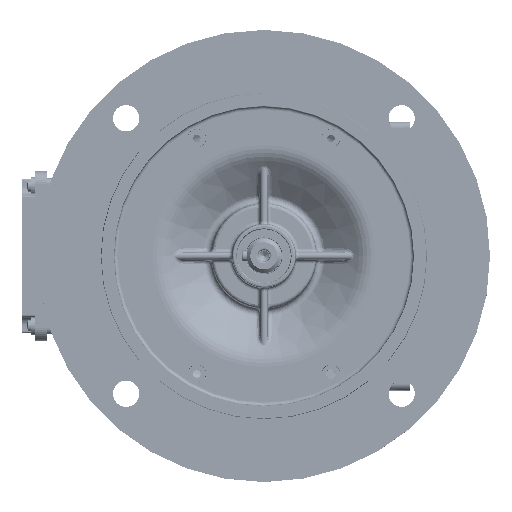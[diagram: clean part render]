
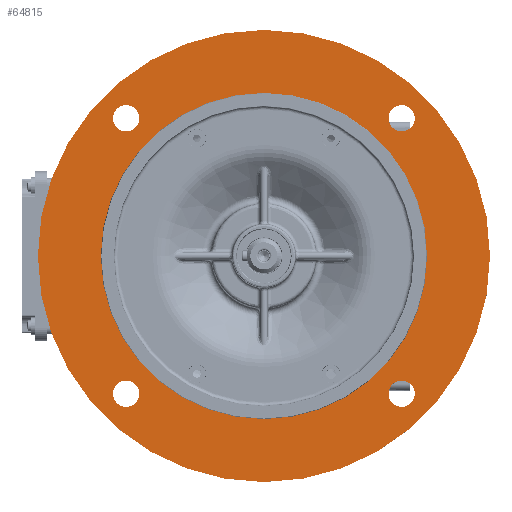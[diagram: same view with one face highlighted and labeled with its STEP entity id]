
A CAD part, top view. The second image highlights one B-rep face of the part: STEP entity #64815.
In plain terms, the highlighted planar face has unit normal (0, 0, 1).
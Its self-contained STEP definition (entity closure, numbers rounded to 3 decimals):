
#50276=FACE_BOUND('',#86097,.T.);
#50277=FACE_BOUND('',#86098,.T.);
#50278=FACE_BOUND('',#86099,.T.);
#50279=FACE_BOUND('',#86100,.T.);
#50280=FACE_BOUND('',#86101,.T.);
#50281=FACE_BOUND('',#86102,.T.);
#52891=PLANE('',#221612);
#64815=ADVANCED_FACE('',(#50276,#50277,#50278,#50279,#50280,#50281),#52891,
 .T.);
#86097=EDGE_LOOP('',(#128440));
#86098=EDGE_LOOP('',(#128441));
#86099=EDGE_LOOP('',(#128442));
#86100=EDGE_LOOP('',(#128443));
#86101=EDGE_LOOP('',(#128444));
#86102=EDGE_LOOP('',(#128445));
#128440=ORIENTED_EDGE('',*,*,#171461,.T.);
#128441=ORIENTED_EDGE('',*,*,#171462,.T.);
#128442=ORIENTED_EDGE('',*,*,#171463,.T.);
#128443=ORIENTED_EDGE('',*,*,#171464,.T.);
#128444=ORIENTED_EDGE('',*,*,#171460,.T.);
#128445=ORIENTED_EDGE('',*,*,#170331,.T.);
#148282=VERTEX_POINT('',#365095);
#148932=VERTEX_POINT('',#377931);
#148933=VERTEX_POINT('',#377934);
#148934=VERTEX_POINT('',#377936);
#148935=VERTEX_POINT('',#377938);
#148936=VERTEX_POINT('',#377940);
#170331=EDGE_CURVE('',#148282,#148282,#182696,.T.);
#171460=EDGE_CURVE('',#148932,#148932,#183120,.T.);
#171461=EDGE_CURVE('',#148933,#148933,#183121,.T.);
#171462=EDGE_CURVE('',#148934,#148934,#183122,.T.);
#171463=EDGE_CURVE('',#148935,#148935,#183123,.T.);
#171464=EDGE_CURVE('',#148936,#148936,#183124,.T.);
#182696=CIRCLE('',#220901,90.);
#183120=CIRCLE('',#221606,124.75);
#183121=CIRCLE('',#221608,7.25);
#183122=CIRCLE('',#221609,7.25);
#183123=CIRCLE('',#221610,7.25);
#183124=CIRCLE('',#221611,7.25);
#220901=AXIS2_PLACEMENT_3D('',#365094,#259678,#259679);
#221606=AXIS2_PLACEMENT_3D('',#377930,#261268,#261269);
#221608=AXIS2_PLACEMENT_3D('',#377933,#261272,#261273);
#221609=AXIS2_PLACEMENT_3D('',#377935,#261274,#261275);
#221610=AXIS2_PLACEMENT_3D('',#377937,#261276,#261277);
#221611=AXIS2_PLACEMENT_3D('',#377939,#261278,#261279);
#221612=AXIS2_PLACEMENT_3D('',#377941,#261280,#261281);
#259678=DIRECTION('',(0.,0.,-1.));
#259679=DIRECTION('',(1.,0.,0.));
#261268=DIRECTION('',(0.,0.,1.));
#261269=DIRECTION('',(1.,0.,0.));
#261272=DIRECTION('',(0.,0.,-1.));
#261273=DIRECTION('',(-1.,0.,0.));
#261274=DIRECTION('',(0.,0.,-1.));
#261275=DIRECTION('',(-1.,0.,0.));
#261276=DIRECTION('',(0.,0.,-1.));
#261277=DIRECTION('',(-1.,0.,0.));
#261278=DIRECTION('',(0.,0.,-1.));
#261279=DIRECTION('',(-1.,0.,0.));
#261280=DIRECTION('',(0.,0.,1.));
#261281=DIRECTION('',(1.,0.,0.));
#365094=CARTESIAN_POINT('',(0.,0.,69.5));
#365095=CARTESIAN_POINT('',(90.,0.,69.5));
#377930=CARTESIAN_POINT('',(0.,0.,69.5));
#377931=CARTESIAN_POINT('',(124.75,0.,69.5));
#377933=CARTESIAN_POINT('',(76.014,-76.014,69.5));
#377934=CARTESIAN_POINT('',(68.764,-76.014,69.5));
#377935=CARTESIAN_POINT('',(-76.014,-76.014,69.5));
#377936=CARTESIAN_POINT('',(-83.264,-76.014,69.5));
#377937=CARTESIAN_POINT('',(-76.014,76.014,69.5));
#377938=CARTESIAN_POINT('',(-83.264,76.014,69.5));
#377939=CARTESIAN_POINT('',(76.014,76.014,69.5));
#377940=CARTESIAN_POINT('',(68.764,76.014,69.5));
#377941=CARTESIAN_POINT('',(0.,0.,69.5));
